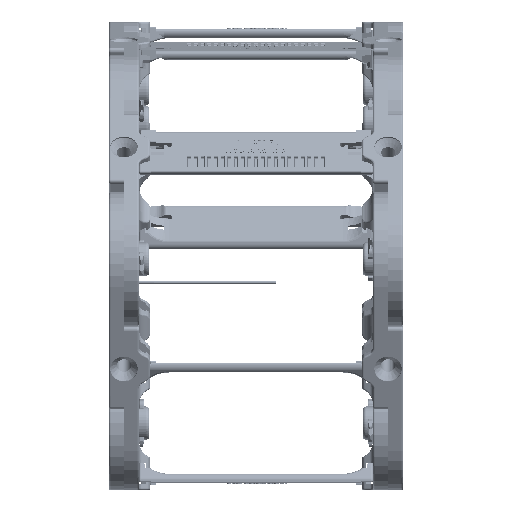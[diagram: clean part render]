
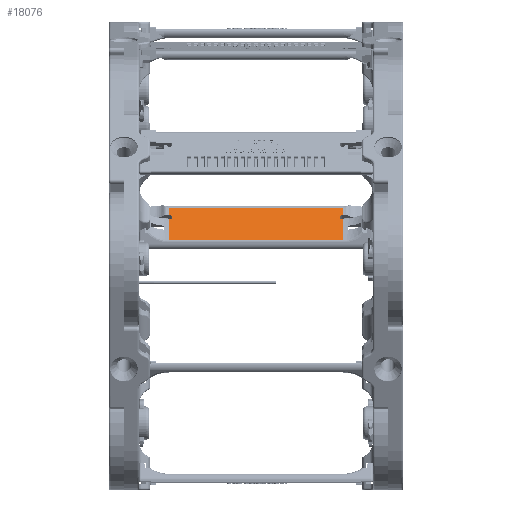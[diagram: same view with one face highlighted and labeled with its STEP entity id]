
A CAD part, front view. The second image highlights one B-rep face of the part: STEP entity #18076.
In plain terms, the highlighted planar face has unit normal (0, -0.758, 0.653) as drawn and (0, 0, -1) by its records, which use the part's own axes.
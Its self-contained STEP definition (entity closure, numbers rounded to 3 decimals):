
#14344=CARTESIAN_POINT('',(5.548,3.7,0.));
#14345=VERTEX_POINT('',#14344);
#14353=CARTESIAN_POINT('',(5.2,3.7,0.));
#14354=VERTEX_POINT('',#14353);
#14355=CARTESIAN_POINT('',(5.548,3.7,0.));
#14356=DIRECTION('',(-1.0,0.0,0.0));
#14357=VECTOR('',#14356,0.348);
#14358=LINE('',#14355,#14357);
#14359=EDGE_CURVE('',#14345,#14354,#14358,.T.);
#14429=CARTESIAN_POINT('',(5.548,13.445,0.));
#14430=VERTEX_POINT('',#14429);
#14619=CARTESIAN_POINT('',(5.548,0.8,0.));
#14620=VERTEX_POINT('',#14619);
#14630=CARTESIAN_POINT('',(5.548,3.7,0.));
#14631=DIRECTION('',(0.0,-1.0,0.0));
#14632=VECTOR('',#14631,2.9);
#14633=LINE('',#14630,#14632);
#14634=EDGE_CURVE('',#14345,#14620,#14633,.T.);
#15002=CARTESIAN_POINT('',(5.548,5.22,0.));
#15003=VERTEX_POINT('',#15002);
#15011=CARTESIAN_POINT('',(5.548,13.445,0.));
#15012=DIRECTION('',(0.0,-1.0,0.0));
#15013=VECTOR('',#15012,8.225);
#15014=LINE('',#15011,#15013);
#15015=EDGE_CURVE('',#14430,#15003,#15014,.T.);
#15239=CARTESIAN_POINT('',(5.2,4.5,0.));
#15240=DIRECTION('',(0.,0.,-1.0));
#15241=DIRECTION('',(0.968,0.25,0.));
#15242=AXIS2_PLACEMENT_3D('',#15239,#15240,#15241);
#15243=CIRCLE('',#15242,0.8);
#15244=EDGE_CURVE('',#14354,#15003,#15243,.T.);
#17201=CARTESIAN_POINT('',(-46.4,3.7,0.));
#17202=VERTEX_POINT('',#17201);
#17209=CARTESIAN_POINT('',(-46.748,3.7,0.));
#17210=VERTEX_POINT('',#17209);
#17211=CARTESIAN_POINT('',(-46.4,3.7,0.));
#17212=DIRECTION('',(-1.0,0.0,0.0));
#17213=VECTOR('',#17212,0.348);
#17214=LINE('',#17211,#17213);
#17215=EDGE_CURVE('',#17202,#17210,#17214,.T.);
#17354=CARTESIAN_POINT('',(-46.748,13.445,0.));
#17355=VERTEX_POINT('',#17354);
#17363=CARTESIAN_POINT('',(-46.748,5.22,0.));
#17364=VERTEX_POINT('',#17363);
#17365=CARTESIAN_POINT('',(-46.748,13.445,0.));
#17366=DIRECTION('',(0.0,-1.0,0.0));
#17367=VECTOR('',#17366,8.225);
#17368=LINE('',#17365,#17367);
#17369=EDGE_CURVE('',#17355,#17364,#17368,.T.);
#17654=CARTESIAN_POINT('',(-46.748,0.8,0.));
#17655=VERTEX_POINT('',#17654);
#17866=CARTESIAN_POINT('',(-46.748,3.7,0.));
#17867=DIRECTION('',(0.0,-1.0,0.0));
#17868=VECTOR('',#17867,2.9);
#17869=LINE('',#17866,#17868);
#17870=EDGE_CURVE('',#17210,#17655,#17869,.T.);
#17897=CARTESIAN_POINT('',(-46.4,4.5,0.));
#17898=DIRECTION('',(0.0,0.0,-1.0));
#17899=DIRECTION('',(0.0,-1.0,0.0));
#17900=AXIS2_PLACEMENT_3D('',#17897,#17898,#17899);
#17901=CIRCLE('',#17900,0.8);
#17902=EDGE_CURVE('',#17364,#17202,#17901,.T.);
#18021=CARTESIAN_POINT('',(-46.748,0.8,0.));
#18022=DIRECTION('',(1.0,0.0,0.0));
#18023=VECTOR('',#18022,52.296);
#18024=LINE('',#18021,#18023);
#18025=EDGE_CURVE('',#17655,#14620,#18024,.T.);
#18054=CARTESIAN_POINT('',(-56.748,15.,0.));
#18055=DIRECTION('',(0.0,0.0,1.0));
#18056=DIRECTION('',(1.0,0.0,0.0));
#18057=AXIS2_PLACEMENT_3D('',#18054,#18055,#18056);
#18058=PLANE('',#18057);
#18059=CARTESIAN_POINT('',(5.548,13.445,0.));
#18060=DIRECTION('',(-1.0,0.0,0.0));
#18061=VECTOR('',#18060,52.296);
#18062=LINE('',#18059,#18061);
#18063=EDGE_CURVE('',#14430,#17355,#18062,.T.);
#18064=ORIENTED_EDGE('',*,*,#18063,.F.);
#18065=ORIENTED_EDGE('',*,*,#15015,.T.);
#18066=ORIENTED_EDGE('',*,*,#15244,.F.);
#18067=ORIENTED_EDGE('',*,*,#14359,.F.);
#18068=ORIENTED_EDGE('',*,*,#14634,.T.);
#18069=ORIENTED_EDGE('',*,*,#18025,.F.);
#18070=ORIENTED_EDGE('',*,*,#17870,.F.);
#18071=ORIENTED_EDGE('',*,*,#17215,.F.);
#18072=ORIENTED_EDGE('',*,*,#17902,.F.);
#18073=ORIENTED_EDGE('',*,*,#17369,.F.);
#18074=EDGE_LOOP('',(#18064,#18065,#18066,#18067,#18068,#18069,#18070,#18071,#18072,#18073));
#18075=FACE_OUTER_BOUND('',#18074,.T.);
#18076=ADVANCED_FACE('',(#18075),#18058,.F.);
